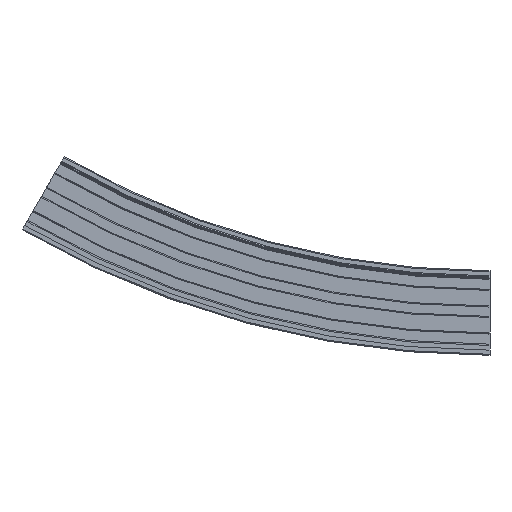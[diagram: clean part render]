
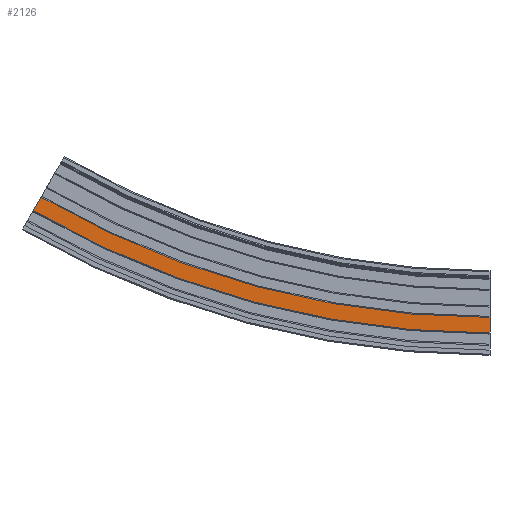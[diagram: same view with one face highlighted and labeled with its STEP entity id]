
A CAD part, left-side view. The second image highlights one B-rep face of the part: STEP entity #2126.
In plain terms, the highlighted planar face has unit normal (-1, 0, 0).
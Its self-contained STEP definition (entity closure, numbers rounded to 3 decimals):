
#214=CIRCLE('',#2314,865.5);
#215=CIRCLE('',#2316,880.5);
#325=FACE_OUTER_BOUND('',#443,.T.);
#443=EDGE_LOOP('',(#1725,#1726,#1727,#1728));
#593=LINE('',#8156,#771);
#594=LINE('',#8158,#772);
#771=VECTOR('',#2772,10.);
#772=VECTOR('',#2773,10.);
#983=VERTEX_POINT('',#8149);
#984=VERTEX_POINT('',#8151);
#985=VERTEX_POINT('',#8155);
#986=VERTEX_POINT('',#8157);
#1271=EDGE_CURVE('',#983,#984,#214,.T.);
#1272=EDGE_CURVE('',#985,#983,#593,.T.);
#1273=EDGE_CURVE('',#986,#984,#594,.T.);
#1274=EDGE_CURVE('',#985,#986,#215,.T.);
#1725=ORIENTED_EDGE('',*,*,#1272,.T.);
#1726=ORIENTED_EDGE('',*,*,#1271,.T.);
#1727=ORIENTED_EDGE('',*,*,#1273,.F.);
#1728=ORIENTED_EDGE('',*,*,#1274,.F.);
#2030=PLANE('',#2315);
#2126=ADVANCED_FACE('',(#325),#2030,.T.);
#2314=AXIS2_PLACEMENT_3D('',#8153,#2768,#2769);
#2315=AXIS2_PLACEMENT_3D('',#8154,#2770,#2771);
#2316=AXIS2_PLACEMENT_3D('',#8159,#2774,#2775);
#2768=DIRECTION('center_axis',(1.,0.,0.));
#2769=DIRECTION('ref_axis',(0.,0.,-1.));
#2770=DIRECTION('center_axis',(-1.,0.,0.));
#2771=DIRECTION('ref_axis',(0.,0.,1.));
#2772=DIRECTION('',(0.,0.,1.));
#2773=DIRECTION('',(0.,-0.5,0.866));
#2774=DIRECTION('center_axis',(1.,0.,0.));
#2775=DIRECTION('ref_axis',(0.,0.,-1.));
#8149=CARTESIAN_POINT('',(-112.,0.,-5.5));
#8151=CARTESIAN_POINT('',(-112.,432.75,110.455));
#8153=CARTESIAN_POINT('Origin',(-112.,0.,860.));
#8154=CARTESIAN_POINT('Origin',(-112.,0.,-20.5));
#8155=CARTESIAN_POINT('',(-112.,0.,-20.5));
#8156=CARTESIAN_POINT('',(-112.,0.,-20.5));
#8157=CARTESIAN_POINT('',(-112.,440.25,97.465));
#8158=CARTESIAN_POINT('',(-112.,440.25,97.465));
#8159=CARTESIAN_POINT('Origin',(-112.,0.,860.));
